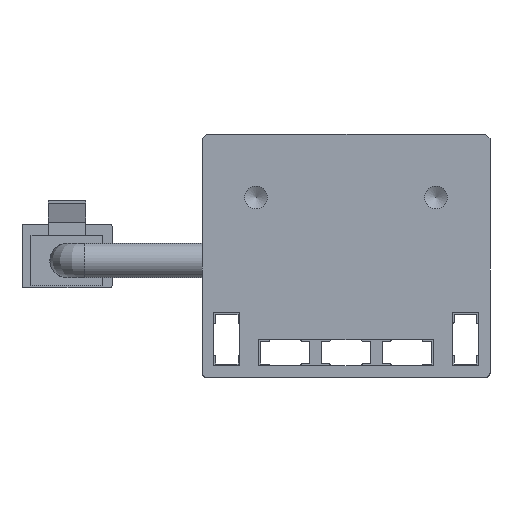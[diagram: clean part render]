
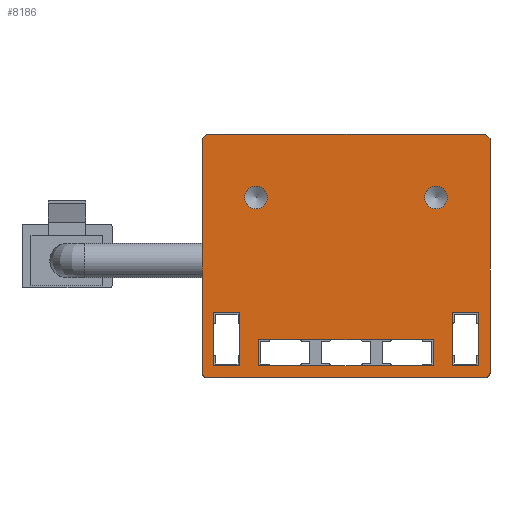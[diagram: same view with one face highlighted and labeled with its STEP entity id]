
A CAD part, front view. The second image highlights one B-rep face of the part: STEP entity #8186.
In plain terms, the highlighted planar face has unit normal (0, -1, 0).
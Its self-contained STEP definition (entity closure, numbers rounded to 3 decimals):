
#73=FACE_BOUND('',#1267,.T.);
#74=FACE_BOUND('',#1268,.T.);
#75=FACE_BOUND('',#1269,.T.);
#76=FACE_BOUND('',#1270,.T.);
#77=FACE_BOUND('',#1271,.T.);
#415=CIRCLE('',#8878,1.265);
#417=CIRCLE('',#8882,1.265);
#419=CIRCLE('',#8897,0.5);
#421=CIRCLE('',#8905,0.5);
#836=FACE_OUTER_BOUND('',#1266,.T.);
#1266=EDGE_LOOP('',(#7410,#7411,#7412,#7413,#7414,#7415,#7416,#7417));
#1267=EDGE_LOOP('',(#7418));
#1268=EDGE_LOOP('',(#7419));
#1269=EDGE_LOOP('',(#7420,#7421,#7422,#7423));
#1270=EDGE_LOOP('',(#7424,#7425,#7426,#7427));
#1271=EDGE_LOOP('',(#7428,#7429,#7430,#7431));
#2172=LINE('',#13450,#3109);
#2175=LINE('',#13456,#3112);
#2178=LINE('',#13462,#3115);
#2181=LINE('',#13466,#3118);
#2184=LINE('',#13474,#3121);
#2187=LINE('',#13480,#3124);
#2190=LINE('',#13486,#3127);
#2193=LINE('',#13490,#3130);
#2196=LINE('',#13498,#3133);
#2199=LINE('',#13504,#3136);
#2202=LINE('',#13510,#3139);
#2205=LINE('',#13514,#3142);
#2209=LINE('',#13528,#3146);
#2212=LINE('',#13534,#3149);
#2215=LINE('',#13540,#3152);
#2218=LINE('',#13546,#3155);
#2221=LINE('',#13552,#3158);
#2225=LINE('',#13562,#3162);
#3109=VECTOR('',#11065,10.);
#3112=VECTOR('',#11070,10.);
#3115=VECTOR('',#11075,10.);
#3118=VECTOR('',#11080,10.);
#3121=VECTOR('',#11085,10.);
#3124=VECTOR('',#11090,10.);
#3127=VECTOR('',#11095,10.);
#3130=VECTOR('',#11100,10.);
#3133=VECTOR('',#11105,10.);
#3136=VECTOR('',#11110,10.);
#3139=VECTOR('',#11115,10.);
#3142=VECTOR('',#11120,10.);
#3146=VECTOR('',#11132,10.);
#3149=VECTOR('',#11137,10.);
#3152=VECTOR('',#11142,10.);
#3155=VECTOR('',#11147,10.);
#3158=VECTOR('',#11152,10.);
#3162=VECTOR('',#11164,10.);
#3903=VERTEX_POINT('',#13431);
#3906=VERTEX_POINT('',#13440);
#3909=VERTEX_POINT('',#13447);
#3910=VERTEX_POINT('',#13449);
#3912=VERTEX_POINT('',#13455);
#3914=VERTEX_POINT('',#13461);
#3917=VERTEX_POINT('',#13471);
#3918=VERTEX_POINT('',#13473);
#3920=VERTEX_POINT('',#13479);
#3922=VERTEX_POINT('',#13485);
#3925=VERTEX_POINT('',#13495);
#3926=VERTEX_POINT('',#13497);
#3928=VERTEX_POINT('',#13503);
#3930=VERTEX_POINT('',#13509);
#3933=VERTEX_POINT('',#13519);
#3934=VERTEX_POINT('',#13521);
#3936=VERTEX_POINT('',#13527);
#3938=VERTEX_POINT('',#13533);
#3940=VERTEX_POINT('',#13539);
#3942=VERTEX_POINT('',#13545);
#3944=VERTEX_POINT('',#13551);
#3946=VERTEX_POINT('',#13557);
#5056=EDGE_CURVE('',#3903,#3903,#415,.T.);
#5060=EDGE_CURVE('',#3906,#3906,#417,.T.);
#5064=EDGE_CURVE('',#3910,#3909,#2172,.T.);
#5067=EDGE_CURVE('',#3912,#3910,#2175,.T.);
#5070=EDGE_CURVE('',#3914,#3912,#2178,.T.);
#5073=EDGE_CURVE('',#3909,#3914,#2181,.T.);
#5076=EDGE_CURVE('',#3918,#3917,#2184,.T.);
#5079=EDGE_CURVE('',#3920,#3918,#2187,.T.);
#5082=EDGE_CURVE('',#3922,#3920,#2190,.T.);
#5085=EDGE_CURVE('',#3917,#3922,#2193,.T.);
#5088=EDGE_CURVE('',#3926,#3925,#2196,.T.);
#5091=EDGE_CURVE('',#3928,#3926,#2199,.T.);
#5094=EDGE_CURVE('',#3930,#3928,#2202,.T.);
#5097=EDGE_CURVE('',#3925,#3930,#2205,.T.);
#5100=EDGE_CURVE('',#3934,#3933,#419,.T.);
#5103=EDGE_CURVE('',#3936,#3934,#2209,.T.);
#5106=EDGE_CURVE('',#3938,#3936,#2212,.T.);
#5109=EDGE_CURVE('',#3940,#3938,#2215,.T.);
#5112=EDGE_CURVE('',#3942,#3940,#2218,.T.);
#5115=EDGE_CURVE('',#3944,#3942,#2221,.T.);
#5118=EDGE_CURVE('',#3946,#3944,#421,.T.);
#5121=EDGE_CURVE('',#3933,#3946,#2225,.T.);
#7410=ORIENTED_EDGE('',*,*,#5121,.T.);
#7411=ORIENTED_EDGE('',*,*,#5118,.T.);
#7412=ORIENTED_EDGE('',*,*,#5115,.T.);
#7413=ORIENTED_EDGE('',*,*,#5112,.T.);
#7414=ORIENTED_EDGE('',*,*,#5109,.T.);
#7415=ORIENTED_EDGE('',*,*,#5106,.T.);
#7416=ORIENTED_EDGE('',*,*,#5103,.T.);
#7417=ORIENTED_EDGE('',*,*,#5100,.T.);
#7418=ORIENTED_EDGE('',*,*,#5056,.T.);
#7419=ORIENTED_EDGE('',*,*,#5060,.T.);
#7420=ORIENTED_EDGE('',*,*,#5097,.T.);
#7421=ORIENTED_EDGE('',*,*,#5094,.T.);
#7422=ORIENTED_EDGE('',*,*,#5091,.T.);
#7423=ORIENTED_EDGE('',*,*,#5088,.T.);
#7424=ORIENTED_EDGE('',*,*,#5085,.T.);
#7425=ORIENTED_EDGE('',*,*,#5082,.T.);
#7426=ORIENTED_EDGE('',*,*,#5079,.T.);
#7427=ORIENTED_EDGE('',*,*,#5076,.T.);
#7428=ORIENTED_EDGE('',*,*,#5073,.T.);
#7429=ORIENTED_EDGE('',*,*,#5070,.T.);
#7430=ORIENTED_EDGE('',*,*,#5067,.T.);
#7431=ORIENTED_EDGE('',*,*,#5064,.T.);
#7770=PLANE('',#8907);
#8186=ADVANCED_FACE('',(#836,#73,#74,#75,#76,#77),#7770,.T.);
#8878=AXIS2_PLACEMENT_3D('',#13432,#11048,#11049);
#8882=AXIS2_PLACEMENT_3D('',#13441,#11058,#11059);
#8897=AXIS2_PLACEMENT_3D('',#13522,#11126,#11127);
#8905=AXIS2_PLACEMENT_3D('',#13558,#11158,#11159);
#8907=AXIS2_PLACEMENT_3D('',#13563,#11165,#11166);
#11048=DIRECTION('center_axis',(0.,1.,0.));
#11049=DIRECTION('ref_axis',(0.,0.,-1.));
#11058=DIRECTION('center_axis',(0.,1.,0.));
#11059=DIRECTION('ref_axis',(0.,0.,-1.));
#11065=DIRECTION('',(0.,0.,-1.));
#11070=DIRECTION('',(1.,0.,0.));
#11075=DIRECTION('',(0.,0.,1.));
#11080=DIRECTION('',(-1.,0.,0.));
#11085=DIRECTION('',(0.,0.,-1.));
#11090=DIRECTION('',(1.,0.,0.));
#11095=DIRECTION('',(0.,0.,1.));
#11100=DIRECTION('',(-1.,0.,0.));
#11105=DIRECTION('',(0.,0.,-1.));
#11110=DIRECTION('',(1.,0.,0.));
#11115=DIRECTION('',(0.,0.,1.));
#11120=DIRECTION('',(-1.,0.,0.));
#11126=DIRECTION('center_axis',(0.,-1.,0.));
#11127=DIRECTION('ref_axis',(-1.,0.,0.));
#11132=DIRECTION('',(0.,0.,-1.));
#11137=DIRECTION('',(-0.707,0.,-0.707));
#11142=DIRECTION('',(-1.,0.,0.));
#11147=DIRECTION('',(-0.707,0.,0.707));
#11152=DIRECTION('',(0.,0.,1.));
#11158=DIRECTION('center_axis',(0.,-1.,0.));
#11159=DIRECTION('ref_axis',(0.,0.,-1.));
#11164=DIRECTION('',(1.,0.,0.));
#11165=DIRECTION('center_axis',(0.,-1.,0.));
#11166=DIRECTION('ref_axis',(1.,0.,0.));
#13431=CARTESIAN_POINT('',(-10.,-40.,21.265));
#13432=CARTESIAN_POINT('Origin',(-10.,-40.,20.));
#13440=CARTESIAN_POINT('',(10.,-40.,21.265));
#13441=CARTESIAN_POINT('Origin',(10.,-40.,20.));
#13447=CARTESIAN_POINT('',(9.7,-40.,1.3));
#13449=CARTESIAN_POINT('',(9.7,-40.,4.2));
#13450=CARTESIAN_POINT('',(9.7,-40.,4.2));
#13455=CARTESIAN_POINT('',(-9.7,-40.,4.2));
#13456=CARTESIAN_POINT('',(-9.7,-40.,4.2));
#13461=CARTESIAN_POINT('',(-9.7,-40.,1.3));
#13462=CARTESIAN_POINT('',(-9.7,-40.,1.3));
#13466=CARTESIAN_POINT('',(9.7,-40.,1.3));
#13471=CARTESIAN_POINT('',(14.7,-40.,1.3));
#13473=CARTESIAN_POINT('',(14.7,-40.,7.2));
#13474=CARTESIAN_POINT('',(14.7,-40.,7.2));
#13479=CARTESIAN_POINT('',(11.8,-40.,7.2));
#13480=CARTESIAN_POINT('',(11.8,-40.,7.2));
#13485=CARTESIAN_POINT('',(11.8,-40.,1.3));
#13486=CARTESIAN_POINT('',(11.8,-40.,1.3));
#13490=CARTESIAN_POINT('',(14.7,-40.,1.3));
#13495=CARTESIAN_POINT('',(-11.8,-40.,1.3));
#13497=CARTESIAN_POINT('',(-11.8,-40.,7.2));
#13498=CARTESIAN_POINT('',(-11.8,-40.,7.2));
#13503=CARTESIAN_POINT('',(-14.7,-40.,7.2));
#13504=CARTESIAN_POINT('',(-14.7,-40.,7.2));
#13509=CARTESIAN_POINT('',(-14.7,-40.,1.3));
#13510=CARTESIAN_POINT('',(-14.7,-40.,1.3));
#13514=CARTESIAN_POINT('',(-11.8,-40.,1.3));
#13519=CARTESIAN_POINT('',(-15.5,-40.,0.));
#13521=CARTESIAN_POINT('',(-16.,-40.,0.5));
#13522=CARTESIAN_POINT('Origin',(-15.5,-40.,0.5));
#13527=CARTESIAN_POINT('',(-16.,-40.,26.5));
#13528=CARTESIAN_POINT('',(-16.,-40.,0.5));
#13533=CARTESIAN_POINT('',(-15.5,-40.,27.));
#13534=CARTESIAN_POINT('',(-16.,-40.,26.5));
#13539=CARTESIAN_POINT('',(15.5,-40.,27.));
#13540=CARTESIAN_POINT('',(-15.5,-40.,27.));
#13545=CARTESIAN_POINT('',(16.,-40.,26.5));
#13546=CARTESIAN_POINT('',(15.5,-40.,27.));
#13551=CARTESIAN_POINT('',(16.,-40.,0.5));
#13552=CARTESIAN_POINT('',(16.,-40.,26.5));
#13557=CARTESIAN_POINT('',(15.5,-40.,0.));
#13558=CARTESIAN_POINT('Origin',(15.5,-40.,0.5));
#13562=CARTESIAN_POINT('',(15.5,-40.,0.));
#13563=CARTESIAN_POINT('Origin',(0.,-40.,13.5));
